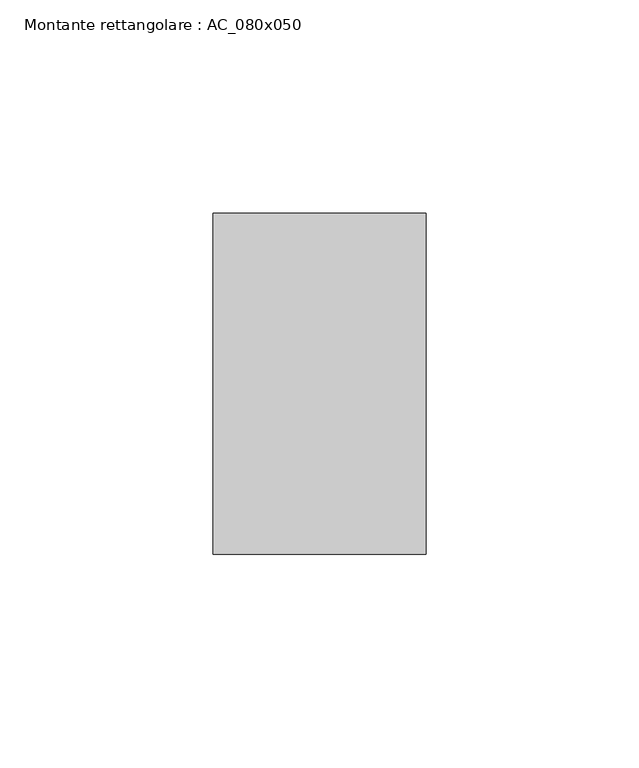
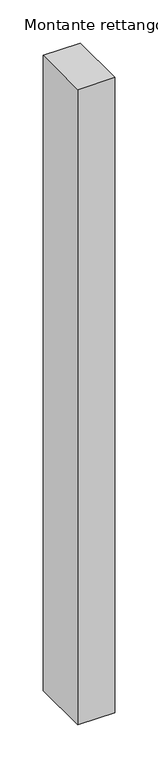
"""IFC4 building model written with IfcOpenShell, lengths in millimetres: member geometry, Montante rettangolare : AC_080x050."""

from ifc_helpers import new_model, si_unit, frame, origin, place, context, project, spatial, polyline, outline, extrude, source, transform, mapped, element, save


def montante_rettangolare_ac_080x050_8d010b6c(model_context):
    return source(origin(), model_context, "Body", "SweptSolid", [
        extrude(outline(polyline([(0.0, 40.0), (0.0, -40.0), (-50.0, -40.0), (-50.0, 40.0), (0.0, 40.0)])), frame((0.0, 0.0, -900.0), z_axis=(0.0, 0.0, 1.0), x_axis=(1.0, 0.0, 0.0)), (0.0, 0.0, 1.0), 900.0),
    ])


if __name__ == "__main__":
    model = new_model("IFC4")
    model_context = context("Model", 3, world=origin())
    ifc_project = project(units=[si_unit("LENGTHUNIT", "METRE", prefix="MILLI")], contexts=[model_context])
    site = spatial("IfcSite", under=ifc_project)
    building = spatial("IfcBuilding", under=site)
    placement = place(None, origin())
    montante_rettangolare_ac_080x050_shape = montante_rettangolare_ac_080x050_8d010b6c(model_context)
    element("IfcMember", 1, ObjectType="Montante rettangolare : AC_080x050", at=placement, inside=building, context=model_context, shape_type="MappedRepresentation", body=[
        mapped(montante_rettangolare_ac_080x050_shape, transform((0.0, 0.0, 0.0), x_axis=(1.0, 0.0, 0.0), y_axis=(0.0, 1.0, 0.0), z_axis=(0.0, 0.0, 1.0))),
    ])
    save(model, "model.ifc")
